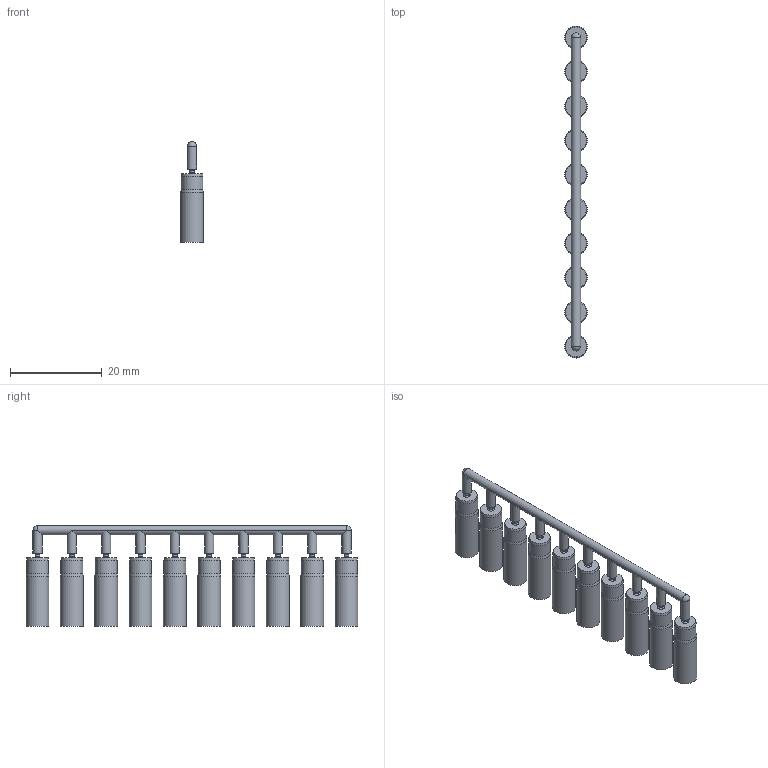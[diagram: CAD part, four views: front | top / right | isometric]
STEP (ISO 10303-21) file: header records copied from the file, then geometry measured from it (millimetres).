
FILE_DESCRIPTION((''),'2;1');
FILE_NAME('C:\Andys Backup Data\WEBSITE\DREAMWEAVER\MiniTec\Products\MiniTec_End_Caps\CAD\STEP\22.1009_1 REPLACEMENT PIN FOR END CAPS GRAY 10 PACK.stp','2016-01-27T10:13:00',('amoles'),(''),'Autodesk Inventor 2012','Autodesk Inventor 2012','');
FILE_SCHEMA(('AUTOMOTIVE_DESIGN { 1 0 10303 214 1 1 1 1 }'));
Length unit declared in the file: inch
Products named in the file (1): 22.1009_1 REPLACEMENT PIN FOR END CAPS GRAY 10 PACK
Bounding box: 5 x 72.5 x 22 mm (x, y, z)
Volume: 3238.8 mm3; surface area: 3409.3 mm2
Topology: 1 solids, 1 shells, 113 faces, 224 edges, 132 vertices
Faces by surface type: cylinder 41, plane 30, cone 20, torus 20, sphere 2
Full cylindrical faces by diameter (mm): 1 x10, 2 x11, 4.8 x10, 5 x10
Entity records: 2374 total; most frequent: DIRECTION 472, CARTESIAN_POINT 356, ORIENTED_EDGE 244, AXIS2_PLACEMENT_3D 236, EDGE_LOOP 222, EDGE_CURVE 122, VERTEX_POINT 120, FACE_OUTER_BOUND 113
